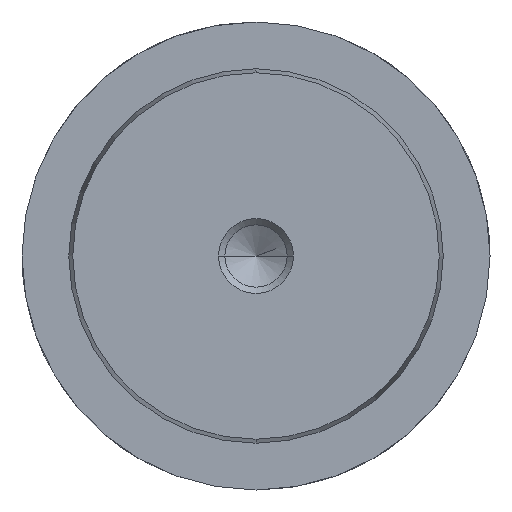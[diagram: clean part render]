
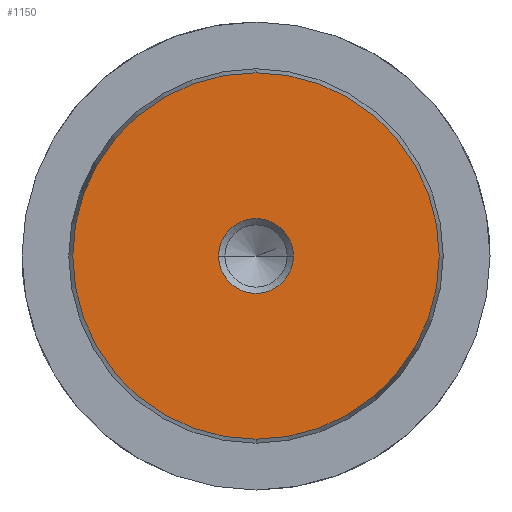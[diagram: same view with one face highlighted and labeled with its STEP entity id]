
A CAD part, left-side view. The second image highlights one B-rep face of the part: STEP entity #1150.
In plain terms, the highlighted planar face has unit normal (-1, 0, 0).
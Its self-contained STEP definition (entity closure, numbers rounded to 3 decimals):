
#1064=CARTESIAN_POINT('Vertex',(0.,0.,-19.578)) ;
#1067=CARTESIAN_POINT('Axis2P3D Location',(0.,0.,0.)) ;
#1071=CARTESIAN_POINT('Vertex',(0.,19.578,0.)) ;
#1074=CARTESIAN_POINT('Axis2P3D Location',(0.,0.,0.)) ;
#1078=CARTESIAN_POINT('Vertex',(0.,0.,19.578)) ;
#1100=CARTESIAN_POINT('Axis2P3D Location',(0.,0.,0.)) ;
#1104=CARTESIAN_POINT('Vertex',(0.,-19.578,0.)) ;
#1107=CARTESIAN_POINT('Axis2P3D Location',(0.,0.,0.)) ;
#1121=CARTESIAN_POINT('Axis2P3D Location',(0.,0.,0.)) ;
#1132=CARTESIAN_POINT('Axis2P3D Location',(0.,0.,0.)) ;
#1136=CARTESIAN_POINT('Vertex',(0.,4.,0.)) ;
#1138=CARTESIAN_POINT('Vertex',(0.,-4.,0.)) ;
#1141=CARTESIAN_POINT('Axis2P3D Location',(0.,0.,0.)) ;
#1068=DIRECTION('Axis2P3D Direction',(1.,0.,-0.)) ;
#1075=DIRECTION('Axis2P3D Direction',(1.,0.,-0.)) ;
#1101=DIRECTION('Axis2P3D Direction',(1.,0.,-0.)) ;
#1108=DIRECTION('Axis2P3D Direction',(1.,0.,-0.)) ;
#1122=DIRECTION('Axis2P3D Direction',(1.,0.,-0.)) ;
#1123=DIRECTION('Axis2P3D XDirection',(-0.,0.,-1.)) ;
#1133=DIRECTION('Axis2P3D Direction',(1.,0.,-0.)) ;
#1142=DIRECTION('Axis2P3D Direction',(1.,0.,-0.)) ;
#1069=AXIS2_PLACEMENT_3D('Circle Axis2P3D',#1067,#1068,$) ;
#1076=AXIS2_PLACEMENT_3D('Circle Axis2P3D',#1074,#1075,$) ;
#1102=AXIS2_PLACEMENT_3D('Circle Axis2P3D',#1100,#1101,$) ;
#1109=AXIS2_PLACEMENT_3D('Circle Axis2P3D',#1107,#1108,$) ;
#1124=AXIS2_PLACEMENT_3D('Plane Axis2P3D',#1121,#1122,#1123) ;
#1134=AXIS2_PLACEMENT_3D('Circle Axis2P3D',#1132,#1133,$) ;
#1143=AXIS2_PLACEMENT_3D('Circle Axis2P3D',#1141,#1142,$) ;
#1127=ORIENTED_EDGE('',*,*,#1073,.F.) ;
#1128=ORIENTED_EDGE('',*,*,#1111,.F.) ;
#1129=ORIENTED_EDGE('',*,*,#1106,.F.) ;
#1130=ORIENTED_EDGE('',*,*,#1080,.F.) ;
#1147=ORIENTED_EDGE('',*,*,#1140,.T.) ;
#1148=ORIENTED_EDGE('',*,*,#1145,.T.) ;
#1149=FACE_BOUND('',#1146,.T.) ;
#1150=ADVANCED_FACE('718-40x140',(#1131,#1149),#1125,.F.) ;
#1070=CIRCLE('generated circle',#1069,19.578) ;
#1077=CIRCLE('generated circle',#1076,19.578) ;
#1103=CIRCLE('generated circle',#1102,19.578) ;
#1110=CIRCLE('generated circle',#1109,19.578) ;
#1135=CIRCLE('generated circle',#1134,4.) ;
#1144=CIRCLE('generated circle',#1143,4.) ;
#1073=EDGE_CURVE('',#1065,#1072,#1070,.T.) ;
#1080=EDGE_CURVE('',#1072,#1079,#1077,.T.) ;
#1106=EDGE_CURVE('',#1079,#1105,#1103,.T.) ;
#1111=EDGE_CURVE('',#1105,#1065,#1110,.T.) ;
#1140=EDGE_CURVE('',#1137,#1139,#1135,.T.) ;
#1145=EDGE_CURVE('',#1139,#1137,#1144,.T.) ;
#1126=EDGE_LOOP('',(#1127,#1128,#1129,#1130)) ;
#1146=EDGE_LOOP('',(#1147,#1148)) ;
#1131=FACE_OUTER_BOUND('',#1126,.T.) ;
#1125=PLANE('Plane',#1124) ;
#1065=VERTEX_POINT('',#1064) ;
#1072=VERTEX_POINT('',#1071) ;
#1079=VERTEX_POINT('',#1078) ;
#1105=VERTEX_POINT('',#1104) ;
#1137=VERTEX_POINT('',#1136) ;
#1139=VERTEX_POINT('',#1138) ;
